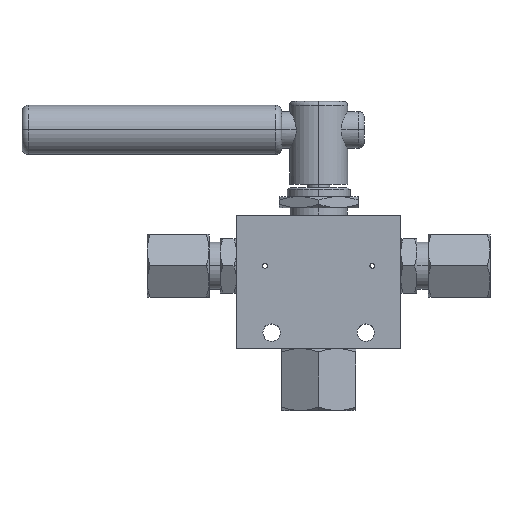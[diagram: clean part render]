
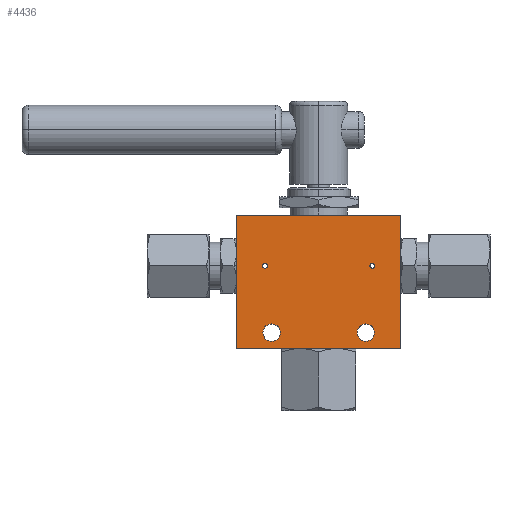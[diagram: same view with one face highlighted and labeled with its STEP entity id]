
A CAD part, top view. The second image highlights one B-rep face of the part: STEP entity #4436.
In plain terms, the highlighted planar face has unit normal (0, 0, 1).
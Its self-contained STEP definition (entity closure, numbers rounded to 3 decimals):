
#76 = CARTESIAN_POINT ( 'NONE',  ( -33.25, -27., 19. ) ) ;
#108 = LINE ( 'NONE', #2203, #6198 ) ;
#142 = AXIS2_PLACEMENT_3D ( 'NONE', #5017, #4525, #3428 ) ;
#160 = CIRCLE ( 'NONE', #3127, 3.5 ) ;
#210 = ORIENTED_EDGE ( 'NONE', *, *, #250, .F. ) ;
#250 = EDGE_CURVE ( 'NONE', #5959, #1963, #6544, .T. ) ;
#289 = CARTESIAN_POINT ( 'NONE',  ( -22.75, 6.5, 19. ) ) ;
#293 = FACE_OUTER_BOUND ( 'NONE', #5780, .T. ) ;
#693 = AXIS2_PLACEMENT_3D ( 'NONE', #6587, #1880, #6617 ) ;
#757 = LINE ( 'NONE', #6363, #6528 ) ;
#854 = DIRECTION ( 'NONE',  ( 0., 0., 1. ) ) ;
#876 = FACE_BOUND ( 'NONE', #3393, .T. ) ;
#981 = LINE ( 'NONE', #2975, #1904 ) ;
#1099 = ORIENTED_EDGE ( 'NONE', *, *, #2617, .F. ) ;
#1250 = ORIENTED_EDGE ( 'NONE', *, *, #5762, .F. ) ;
#1334 = DIRECTION ( 'NONE',  ( 0., 0., 1. ) ) ;
#1369 = CARTESIAN_POINT ( 'NONE',  ( 21.75, 6.5, 19. ) ) ;
#1459 = CARTESIAN_POINT ( 'NONE',  ( 33.25, 27., 19. ) ) ;
#1615 = CARTESIAN_POINT ( 'NONE',  ( 22.55, -20.5, 19. ) ) ;
#1704 = VECTOR ( 'NONE', #2087, 1000. ) ;
#1729 = DIRECTION ( 'NONE',  ( 1., 0., 0. ) ) ;
#1847 = CARTESIAN_POINT ( 'NONE',  ( 19.05, -20.5, 19. ) ) ;
#1880 = DIRECTION ( 'NONE',  ( 0., 0., -1. ) ) ;
#1891 = EDGE_CURVE ( 'NONE', #2832, #6064, #5081, .T. ) ;
#1904 = VECTOR ( 'NONE', #2528, 1000. ) ;
#1963 = VERTEX_POINT ( 'NONE', #289 ) ;
#2056 = VERTEX_POINT ( 'NONE', #1459 ) ;
#2087 = DIRECTION ( 'NONE',  ( -1., 0., 0. ) ) ;
#2089 = CARTESIAN_POINT ( 'NONE',  ( -20.75, 6.5, 19. ) ) ;
#2091 = ORIENTED_EDGE ( 'NONE', *, *, #4420, .F. ) ;
#2146 = AXIS2_PLACEMENT_3D ( 'NONE', #3853, #6428, #1729 ) ;
#2203 = CARTESIAN_POINT ( 'NONE',  ( 33.25, -27., 19. ) ) ;
#2266 = DIRECTION ( 'NONE',  ( 1., 0., 0. ) ) ;
#2364 = CARTESIAN_POINT ( 'NONE',  ( -33.25, 27., 19. ) ) ;
#2390 = FACE_BOUND ( 'NONE', #3959, .T. ) ;
#2422 = FACE_BOUND ( 'NONE', #3785, .T. ) ;
#2426 = VERTEX_POINT ( 'NONE', #4298 ) ;
#2445 = AXIS2_PLACEMENT_3D ( 'NONE', #6146, #4632, #3119 ) ;
#2528 = DIRECTION ( 'NONE',  ( 1., 0., 0. ) ) ;
#2542 = AXIS2_PLACEMENT_3D ( 'NONE', #1847, #3809, #5011 ) ;
#2543 = ORIENTED_EDGE ( 'NONE', *, *, #3937, .T. ) ;
#2545 = DIRECTION ( 'NONE',  ( 1., 0., 0. ) ) ;
#2551 = CIRCLE ( 'NONE', #2445, 1. ) ;
#2617 = EDGE_CURVE ( 'NONE', #3945, #5965, #4758, .T. ) ;
#2627 = VERTEX_POINT ( 'NONE', #2364 ) ;
#2677 = EDGE_CURVE ( 'NONE', #6353, #4595, #981, .T. ) ;
#2695 = EDGE_CURVE ( 'NONE', #5965, #3945, #2551, .T. ) ;
#2832 = VERTEX_POINT ( 'NONE', #1615 ) ;
#2975 = CARTESIAN_POINT ( 'NONE',  ( -33.25, -27., 19. ) ) ;
#3002 = AXIS2_PLACEMENT_3D ( 'NONE', #4175, #3698, #2545 ) ;
#3019 = DIRECTION ( 'NONE',  ( 1., 0., 0. ) ) ;
#3050 = EDGE_CURVE ( 'NONE', #1963, #5959, #4981, .T. ) ;
#3119 = DIRECTION ( 'NONE',  ( 1., 0., 0. ) ) ;
#3127 = AXIS2_PLACEMENT_3D ( 'NONE', #4062, #854, #3019 ) ;
#3312 = ORIENTED_EDGE ( 'NONE', *, *, #3050, .F. ) ;
#3354 = CIRCLE ( 'NONE', #6527, 3.5 ) ;
#3393 = EDGE_LOOP ( 'NONE', ( #3312, #210 ) ) ;
#3409 = ORIENTED_EDGE ( 'NONE', *, *, #5629, .F. ) ;
#3428 = DIRECTION ( 'NONE',  ( 1., 0., 0. ) ) ;
#3465 = ORIENTED_EDGE ( 'NONE', *, *, #2677, .T. ) ;
#3673 = CIRCLE ( 'NONE', #142, 3.5 ) ;
#3683 = CARTESIAN_POINT ( 'NONE',  ( 20.75, 6.5, 19. ) ) ;
#3698 = DIRECTION ( 'NONE',  ( 0., 0., 1. ) ) ;
#3748 = EDGE_CURVE ( 'NONE', #2056, #2627, #6280, .T. ) ;
#3785 = EDGE_LOOP ( 'NONE', ( #2091, #3409 ) ) ;
#3795 = CARTESIAN_POINT ( 'NONE',  ( 22.75, 6.5, 19. ) ) ;
#3809 = DIRECTION ( 'NONE',  ( 0., 0., 1. ) ) ;
#3835 = ORIENTED_EDGE ( 'NONE', *, *, #2695, .F. ) ;
#3853 = CARTESIAN_POINT ( 'NONE',  ( -21.75, 6.5, 19. ) ) ;
#3882 = DIRECTION ( 'NONE',  ( 1., 0., 0. ) ) ;
#3937 = EDGE_CURVE ( 'NONE', #2627, #6353, #757, .T. ) ;
#3945 = VERTEX_POINT ( 'NONE', #3795 ) ;
#3959 = EDGE_LOOP ( 'NONE', ( #3835, #1099 ) ) ;
#4062 = CARTESIAN_POINT ( 'NONE',  ( 19.05, -20.5, 19. ) ) ;
#4140 = EDGE_LOOP ( 'NONE', ( #1250, #6507 ) ) ;
#4175 = CARTESIAN_POINT ( 'NONE',  ( -21.75, 6.5, 19. ) ) ;
#4298 = CARTESIAN_POINT ( 'NONE',  ( -22.55, -20.5, 19. ) ) ;
#4304 = DIRECTION ( 'NONE',  ( 0., -1., 0. ) ) ;
#4306 = DIRECTION ( 'NONE',  ( 0., 1., 0. ) ) ;
#4400 = DIRECTION ( 'NONE',  ( 0., 0., 1. ) ) ;
#4420 = EDGE_CURVE ( 'NONE', #2426, #6547, #3673, .T. ) ;
#4436 = ADVANCED_FACE ( 'NONE', ( #293, #876, #2390, #2422, #6654 ), #4497, .F. ) ;
#4497 = PLANE ( 'NONE',  #693 ) ;
#4514 = CARTESIAN_POINT ( 'NONE',  ( -15.55, -20.5, 19. ) ) ;
#4525 = DIRECTION ( 'NONE',  ( 0., 0., 1. ) ) ;
#4595 = VERTEX_POINT ( 'NONE', #5176 ) ;
#4632 = DIRECTION ( 'NONE',  ( 0., 0., 1. ) ) ;
#4758 = CIRCLE ( 'NONE', #4865, 1. ) ;
#4865 = AXIS2_PLACEMENT_3D ( 'NONE', #1369, #4400, #3882 ) ;
#4981 = CIRCLE ( 'NONE', #3002, 1. ) ;
#5010 = CARTESIAN_POINT ( 'NONE',  ( 15.55, -20.5, 19. ) ) ;
#5011 = DIRECTION ( 'NONE',  ( 1., 0., 0. ) ) ;
#5017 = CARTESIAN_POINT ( 'NONE',  ( -19.05, -20.5, 19. ) ) ;
#5081 = CIRCLE ( 'NONE', #2542, 3.5 ) ;
#5144 = EDGE_CURVE ( 'NONE', #4595, #2056, #108, .T. ) ;
#5176 = CARTESIAN_POINT ( 'NONE',  ( 33.25, -27., 19. ) ) ;
#5481 = ORIENTED_EDGE ( 'NONE', *, *, #3748, .T. ) ;
#5535 = ORIENTED_EDGE ( 'NONE', *, *, #5144, .T. ) ;
#5629 = EDGE_CURVE ( 'NONE', #6547, #2426, #3354, .T. ) ;
#5633 = CARTESIAN_POINT ( 'NONE',  ( -33.25, 27., 19. ) ) ;
#5762 = EDGE_CURVE ( 'NONE', #6064, #2832, #160, .T. ) ;
#5780 = EDGE_LOOP ( 'NONE', ( #5535, #5481, #2543, #3465 ) ) ;
#5959 = VERTEX_POINT ( 'NONE', #2089 ) ;
#5965 = VERTEX_POINT ( 'NONE', #3683 ) ;
#6064 = VERTEX_POINT ( 'NONE', #5010 ) ;
#6080 = CARTESIAN_POINT ( 'NONE',  ( -19.05, -20.5, 19. ) ) ;
#6146 = CARTESIAN_POINT ( 'NONE',  ( 21.75, 6.5, 19. ) ) ;
#6198 = VECTOR ( 'NONE', #4306, 1000. ) ;
#6280 = LINE ( 'NONE', #5633, #1704 ) ;
#6353 = VERTEX_POINT ( 'NONE', #76 ) ;
#6363 = CARTESIAN_POINT ( 'NONE',  ( -33.25, -27., 19. ) ) ;
#6428 = DIRECTION ( 'NONE',  ( 0., 0., 1. ) ) ;
#6507 = ORIENTED_EDGE ( 'NONE', *, *, #1891, .F. ) ;
#6527 = AXIS2_PLACEMENT_3D ( 'NONE', #6080, #1334, #2266 ) ;
#6528 = VECTOR ( 'NONE', #4304, 1000. ) ;
#6544 = CIRCLE ( 'NONE', #2146, 1. ) ;
#6547 = VERTEX_POINT ( 'NONE', #4514 ) ;
#6587 = CARTESIAN_POINT ( 'NONE',  ( 0., 0., 19. ) ) ;
#6617 = DIRECTION ( 'NONE',  ( -1., 0., 0. ) ) ;
#6654 = FACE_BOUND ( 'NONE', #4140, .T. ) ;
